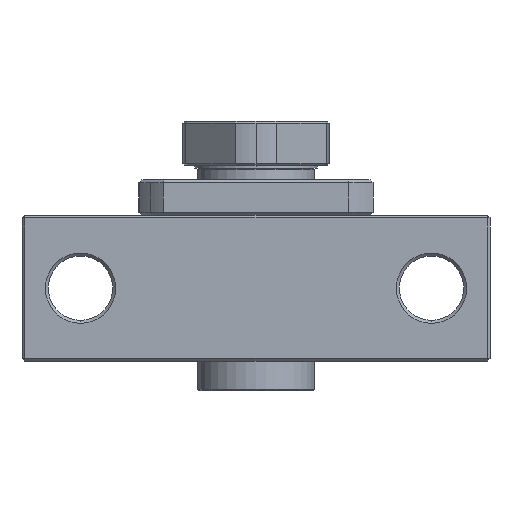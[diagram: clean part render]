
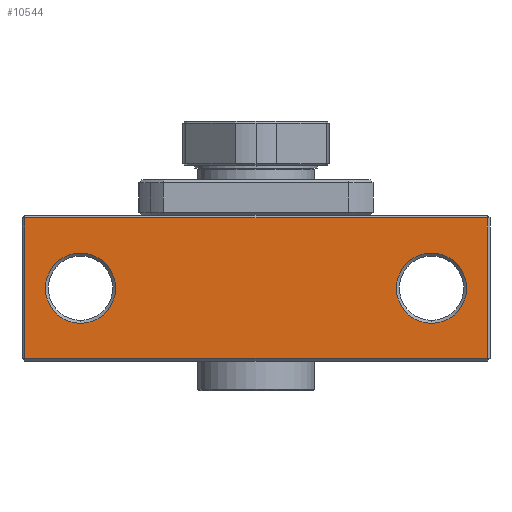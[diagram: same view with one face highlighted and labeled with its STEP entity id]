
A CAD part, front view. The second image highlights one B-rep face of the part: STEP entity #10544.
In plain terms, the highlighted planar face has unit normal (0, -1, 0).
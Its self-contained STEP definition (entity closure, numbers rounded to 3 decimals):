
#1276 = EDGE_CURVE ( 'NONE', #6983, #7165, #9136, .T. ) ;
#1277 = EDGE_CURVE ( 'NONE', #6991, #6983, #9139, .T. ) ;
#1278 = EDGE_CURVE ( 'NONE', #7165, #6881, #9142, .T. ) ;
#1279 = EDGE_CURVE ( 'NONE', #6884, #7071, #1568, .T. ) ;
#1280 = EDGE_CURVE ( 'NONE', #7080, #7081, #1569, .T. ) ;
#1281 = EDGE_CURVE ( 'NONE', #6881, #6991, #9151, .T. ) ;
#1324 = EDGE_CURVE ( 'NONE', #7081, #7080, #1575, .T. ) ;
#1328 = EDGE_CURVE ( 'NONE', #7071, #6884, #1577, .T. ) ;
#1568 = CIRCLE ( 'NONE', #6677, 6. ) ;
#1569 = CIRCLE ( 'NONE', #6681, 6. ) ;
#1575 = CIRCLE ( 'NONE', #6725, 6. ) ;
#1577 = CIRCLE ( 'NONE', #6729, 6. ) ;
#2083 = FACE_BOUND ( 'NONE', #7423, .T. ) ;
#2089 = AXIS2_PLACEMENT_3D ( 'NONE', #2621, #2622, #2623 ) ;
#2090 = FACE_BOUND ( 'NONE', #7427, .T. ) ;
#2092 = FACE_OUTER_BOUND ( 'NONE', #7428, .T. ) ;
#2620 = PLANE ( 'NONE',  #2089 ) ;
#2621 = CARTESIAN_POINT ( 'NONE',  ( 40., -30., 12.5 ) ) ;
#2622 = DIRECTION ( 'NONE',  ( 0., 1., 0. ) ) ;
#2623 = DIRECTION ( 'NONE',  ( -1., 0., 0. ) ) ;
#4186 = ORIENTED_EDGE ( 'NONE', *, *, #1276, .T. ) ;
#4187 = ORIENTED_EDGE ( 'NONE', *, *, #1281, .T. ) ;
#4188 = ORIENTED_EDGE ( 'NONE', *, *, #1277, .T. ) ;
#4189 = ORIENTED_EDGE ( 'NONE', *, *, #1278, .T. ) ;
#4190 = ORIENTED_EDGE ( 'NONE', *, *, #1328, .T. ) ;
#4191 = ORIENTED_EDGE ( 'NONE', *, *, #1279, .T. ) ;
#4192 = ORIENTED_EDGE ( 'NONE', *, *, #1280, .T. ) ;
#4193 = ORIENTED_EDGE ( 'NONE', *, *, #1324, .T. ) ;
#6677 = AXIS2_PLACEMENT_3D ( 'NONE', #9120, #9145, #9146 ) ;
#6678 = VECTOR ( 'NONE', #9138, 1000. ) ;
#6679 = VECTOR ( 'NONE', #9141, 1000. ) ;
#6680 = VECTOR ( 'NONE', #9144, 1000. ) ;
#6681 = AXIS2_PLACEMENT_3D ( 'NONE', #9147, #9148, #9149 ) ;
#6682 = VECTOR ( 'NONE', #9153, 1000. ) ;
#6725 = AXIS2_PLACEMENT_3D ( 'NONE', #9264, #9280, #9281 ) ;
#6729 = AXIS2_PLACEMENT_3D ( 'NONE', #9285, #9292, #9293 ) ;
#6881 = VERTEX_POINT ( 'NONE', #9913 ) ;
#6884 = VERTEX_POINT ( 'NONE', #9916 ) ;
#6983 = VERTEX_POINT ( 'NONE', #9961 ) ;
#6991 = VERTEX_POINT ( 'NONE', #9969 ) ;
#7071 = VERTEX_POINT ( 'NONE', #7545 ) ;
#7080 = VERTEX_POINT ( 'NONE', #7554 ) ;
#7081 = VERTEX_POINT ( 'NONE', #7555 ) ;
#7165 = VERTEX_POINT ( 'NONE', #7639 ) ;
#7423 = EDGE_LOOP ( 'NONE', ( #4193, #4192 ) ) ;
#7427 = EDGE_LOOP ( 'NONE', ( #4190, #4191 ) ) ;
#7428 = EDGE_LOOP ( 'NONE', ( #4189, #4187, #4188, #4186 ) ) ;
#7545 = CARTESIAN_POINT ( 'NONE',  ( 30., -30., -6. ) ) ;
#7554 = CARTESIAN_POINT ( 'NONE',  ( -30., -30., 6. ) ) ;
#7555 = CARTESIAN_POINT ( 'NONE',  ( -30., -30., -6. ) ) ;
#7639 = CARTESIAN_POINT ( 'NONE',  ( -39.5, -30., 12. ) ) ;
#9120 = CARTESIAN_POINT ( 'NONE',  ( 30., -30., 0. ) ) ;
#9136 = LINE ( 'NONE', #9137, #6678 ) ;
#9137 = CARTESIAN_POINT ( 'NONE',  ( 40., -30., 12. ) ) ;
#9138 = DIRECTION ( 'NONE',  ( -1., 0., 0. ) ) ;
#9139 = LINE ( 'NONE', #9140, #6679 ) ;
#9140 = CARTESIAN_POINT ( 'NONE',  ( 39.5, -30., 12.5 ) ) ;
#9141 = DIRECTION ( 'NONE',  ( 0., 0., 1. ) ) ;
#9142 = LINE ( 'NONE', #9143, #6680 ) ;
#9143 = CARTESIAN_POINT ( 'NONE',  ( -39.5, -30., 12.5 ) ) ;
#9144 = DIRECTION ( 'NONE',  ( 0., 0., -1. ) ) ;
#9145 = DIRECTION ( 'NONE',  ( 0., 1., 0. ) ) ;
#9146 = DIRECTION ( 'NONE',  ( -1., 0., 0. ) ) ;
#9147 = CARTESIAN_POINT ( 'NONE',  ( -30., -30., 0. ) ) ;
#9148 = DIRECTION ( 'NONE',  ( 0., 1., 0. ) ) ;
#9149 = DIRECTION ( 'NONE',  ( -1., 0., 0. ) ) ;
#9151 = LINE ( 'NONE', #9152, #6682 ) ;
#9152 = CARTESIAN_POINT ( 'NONE',  ( 40., -30., -12. ) ) ;
#9153 = DIRECTION ( 'NONE',  ( 1., 0., 0. ) ) ;
#9264 = CARTESIAN_POINT ( 'NONE',  ( -30., -30., 0. ) ) ;
#9280 = DIRECTION ( 'NONE',  ( 0., 1., 0. ) ) ;
#9281 = DIRECTION ( 'NONE',  ( -1., 0., 0. ) ) ;
#9285 = CARTESIAN_POINT ( 'NONE',  ( 30., -30., 0. ) ) ;
#9292 = DIRECTION ( 'NONE',  ( 0., 1., 0. ) ) ;
#9293 = DIRECTION ( 'NONE',  ( -1., 0., 0. ) ) ;
#9913 = CARTESIAN_POINT ( 'NONE',  ( -39.5, -30., -12. ) ) ;
#9916 = CARTESIAN_POINT ( 'NONE',  ( 30., -30., 6. ) ) ;
#9961 = CARTESIAN_POINT ( 'NONE',  ( 39.5, -30., 12. ) ) ;
#9969 = CARTESIAN_POINT ( 'NONE',  ( 39.5, -30., -12. ) ) ;
#10544 = ADVANCED_FACE ( 'NONE', ( #2083, #2090, #2092 ), #2620, .F. ) ;
